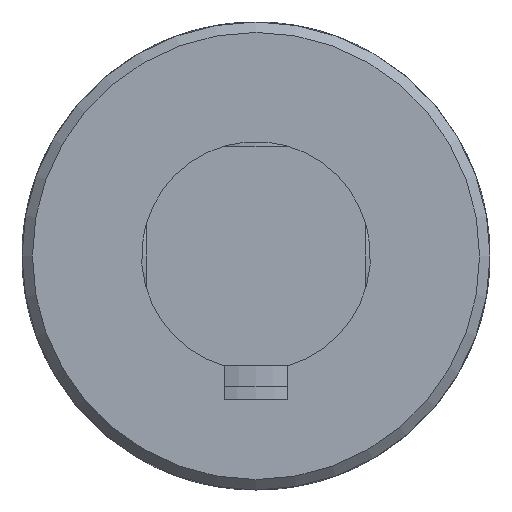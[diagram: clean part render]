
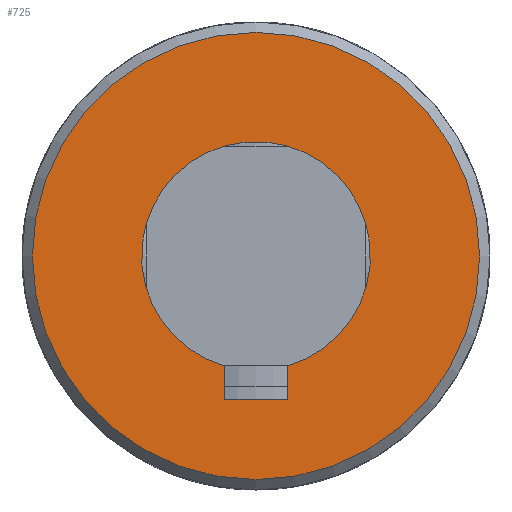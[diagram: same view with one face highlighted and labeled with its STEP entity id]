
A CAD part, front view. The second image highlights one B-rep face of the part: STEP entity #725.
In plain terms, the highlighted planar face has unit normal (0, -1, 0).
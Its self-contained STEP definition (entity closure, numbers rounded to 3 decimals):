
#83=LINE('',#1100,#116);
#87=LINE('',#1123,#120);
#89=LINE('',#1131,#122);
#116=VECTOR('',#902,3.217);
#120=VECTOR('',#914,6.);
#122=VECTOR('',#918,3.217);
#148=PLANE('',#792);
#174=FACE_BOUND('',#263,.T.);
#203=FACE_OUTER_BOUND('',#262,.T.);
#262=EDGE_LOOP('',(#589));
#263=EDGE_LOOP('',(#590,#591,#592,#593));
#303=CIRCLE('',#779,11.);
#309=CIRCLE('',#790,21.5);
#345=VERTEX_POINT('',#1097);
#346=VERTEX_POINT('',#1099);
#349=VERTEX_POINT('',#1109);
#351=VERTEX_POINT('',#1121);
#360=VERTEX_POINT('',#1210);
#422=EDGE_CURVE('',#346,#345,#83,.T.);
#426=EDGE_CURVE('',#349,#346,#303,.T.);
#430=EDGE_CURVE('',#345,#351,#87,.T.);
#433=EDGE_CURVE('',#351,#349,#89,.T.);
#443=EDGE_CURVE('',#360,#360,#309,.T.);
#589=ORIENTED_EDGE('',*,*,#443,.F.);
#590=ORIENTED_EDGE('',*,*,#422,.T.);
#591=ORIENTED_EDGE('',*,*,#430,.T.);
#592=ORIENTED_EDGE('',*,*,#433,.T.);
#593=ORIENTED_EDGE('',*,*,#426,.T.);
#725=ADVANCED_FACE('',(#203,#174),#148,.F.);
#779=AXIS2_PLACEMENT_3D('',#1110,#908,#909);
#790=AXIS2_PLACEMENT_3D('',#1211,#935,#936);
#792=AXIS2_PLACEMENT_3D('',#1395,#943,#944);
#902=DIRECTION('',(0.,0.,-1.));
#908=DIRECTION('center_axis',(0.,1.,0.));
#909=DIRECTION('ref_axis',(-0.273,0.,0.962));
#914=DIRECTION('',(-1.,0.,0.));
#918=DIRECTION('',(0.,0.,1.));
#935=DIRECTION('center_axis',(0.,1.,0.));
#936=DIRECTION('ref_axis',(1.,0.,0.));
#943=DIRECTION('center_axis',(0.,1.,0.));
#944=DIRECTION('ref_axis',(0.,0.,1.));
#1097=CARTESIAN_POINT('',(3.,-58.,-13.8));
#1099=CARTESIAN_POINT('',(3.,-58.,-10.583));
#1100=CARTESIAN_POINT('',(3.,-58.,-5.292));
#1109=CARTESIAN_POINT('',(-3.,-58.,-10.583));
#1110=CARTESIAN_POINT('Origin',(0.,-58.,0.));
#1121=CARTESIAN_POINT('',(-3.,-58.,-13.8));
#1123=CARTESIAN_POINT('',(1.5,-58.,-13.8));
#1131=CARTESIAN_POINT('',(-3.,-58.,-6.9));
#1210=CARTESIAN_POINT('',(-21.5,-58.,0.));
#1211=CARTESIAN_POINT('Origin',(0.,-58.,0.));
#1395=CARTESIAN_POINT('Origin',(0.,-58.,0.));
